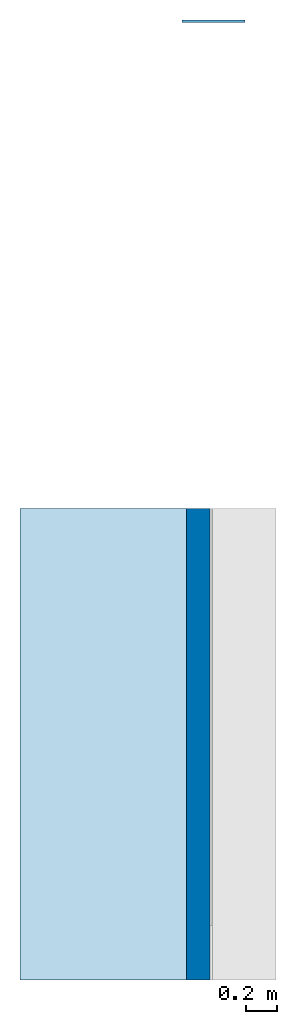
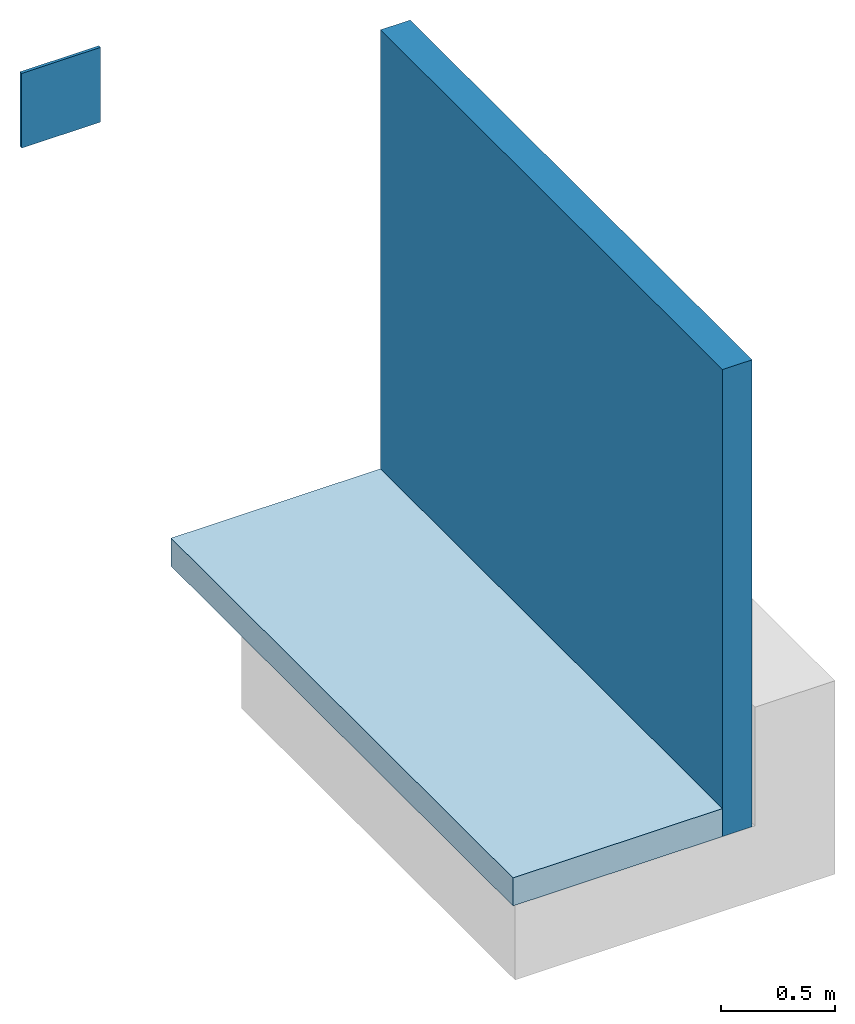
# One storey, part 1 of 2: 2 walls, 1 slab.
"""IFC2X3 building model written with IfcOpenShell, lengths in metres."""

import ifcopenshell
import ifcopenshell.guid

model = None  # the IFC model being written
_history = None  # IfcOwnerHistory: only IFC2X3 demands one
_inside = {}  # id of a spatial element -> (the spatial element, [elements in it])
_under = {}  # id of a project, library or spatial element -> (it, [spatial elements below it])
_declared = {}  # id of a project -> (the project, [libraries it declares])
_typed = {}  # id of a type object -> (the type object, [elements of that type])
_made_of = {}  # id of a material, layer set ... -> (it, [elements and type objects made of it])


def new_model(schema):
    """Start an empty IFC model of exactly this schema.

    Asked for "IFC4X3", IfcOpenShell would pick the latest addendum, in which some entities
    have other attributes; the version numbers below select the first issue.
    IFC2X3 requires an IfcOwnerHistory on every rooted entity: one is made here for all.
    """
    global model, _history
    if schema == "IFC4X3":
        model = ifcopenshell.file(schema_version=(4, 3, 0, 0))
    else:
        model = ifcopenshell.file(schema=schema)
    _inside.clear()
    _under.clear()
    _declared.clear()
    _typed.clear()
    _made_of.clear()
    _history = None
    if model.schema == "IFC2X3":
        org = make("IfcOrganization", Name="unknown")
        user = make(
            "IfcPersonAndOrganization",
            ThePerson=make("IfcPerson", FamilyName="unknown"),
            TheOrganization=org,
        )
        app = make(
            "IfcApplication",
            ApplicationDeveloper=org,
            Version="unknown",
            ApplicationFullName="unknown",
            ApplicationIdentifier="unknown",
        )
        _history = make(
            "IfcOwnerHistory",
            OwningUser=user,
            OwningApplication=app,
            ChangeAction="ADDED",
            CreationDate=0,
        )
    return model


def make(cls, **values):
    """One entity of the class cls with the attributes given. An attribute that is None is left unset."""
    return model.create_entity(
        cls, **{name: value for name, value in values.items() if value is not None}
    )


def entity(cls, *values):
    """Any entity or typed value of the class cls, its attributes in the order of the schema. None: left unset."""
    e = model.create_entity(cls)
    for i, value in enumerate(values):
        if value is not None:
            e[i] = value
    return e


def rooted(cls, **values):
    """An entity with a GlobalId (a new one), such as an element, a storey or a relation."""
    return make(cls, GlobalId=ifcopenshell.guid.new(), OwnerHistory=_history, **values)


def si_unit(unit_type, name, prefix=None):
    """IfcSIUnit, for example si_unit("LENGTHUNIT", "METRE", prefix="MILLI")."""
    return make("IfcSIUnit", UnitType=unit_type, Prefix=prefix, Name=name)


def converted_unit(unit_type, name, factor, base, dimensions=None, offset=None):
    """IfcConversionBasedUnit, such as the inch: factor (a typed value) times the base unit."""
    return make(
        "IfcConversionBasedUnit"
        if offset is None
        else "IfcConversionBasedUnitWithOffset",
        ConversionOffset=offset,
        Dimensions=None
        if dimensions is None
        else entity("IfcDimensionalExponents", *dimensions),
        UnitType=unit_type,
        Name=name,
        ConversionFactor=make(
            "IfcMeasureWithUnit", ValueComponent=factor, UnitComponent=base
        ),
    )


def derived_unit(unit_type, elements):
    """IfcDerivedUnit: a product of units, each with its exponent."""
    return make(
        "IfcDerivedUnit",
        Elements=[
            make("IfcDerivedUnitElement", Unit=unit, Exponent=power)
            for unit, power in elements
        ],
        UnitType=unit_type,
    )


def assignment(units):
    """IfcUnitAssignment: the units of a project."""
    return None if units is None else make("IfcUnitAssignment", Units=units)


def point(xyz):
    """IfcCartesianPoint."""
    return None if xyz is None else make("IfcCartesianPoint", Coordinates=xyz)


def direction(xyz):
    """IfcDirection."""
    return None if xyz is None else make("IfcDirection", DirectionRatios=xyz)


def frame(location, z_axis=None, x_axis=None):
    """IfcAxis2Placement3D, a coordinate frame: its origin and axes. An axis left out is left unset."""
    return make(
        "IfcAxis2Placement3D",
        Location=point(location),
        Axis=direction(z_axis),
        RefDirection=direction(x_axis),
    )


def frame_2d(location, x_axis=None):
    """IfcAxis2Placement2D, a coordinate frame in the plane: its origin and x axis."""
    return make(
        "IfcAxis2Placement2D", Location=point(location), RefDirection=direction(x_axis)
    )


def origin():
    """The frame at (0, 0, 0) with its axes left unset."""
    return frame((0.0, 0.0, 0.0))


def place(relative_to, where):
    """IfcLocalPlacement: puts the frame where relative to a parent placement (None: the world)."""
    return make(
        "IfcLocalPlacement", PlacementRelTo=relative_to, RelativePlacement=where
    )


def context(
    kind, dimensions, precision=None, world=None, true_north=None, identifier=None
):
    """IfcGeometricRepresentationContext, for example the 3D "Model" context."""
    return make(
        "IfcGeometricRepresentationContext",
        ContextIdentifier=identifier,
        ContextType=kind,
        CoordinateSpaceDimension=dimensions,
        Precision=precision,
        WorldCoordinateSystem=world,
        TrueNorth=true_north,
    )


def subcontext(parent, identifier, kind, view, scale=None):
    """IfcGeometricRepresentationSubContext, for example "Body" below "Model"."""
    return make(
        "IfcGeometricRepresentationSubContext",
        ContextIdentifier=identifier,
        ContextType=kind,
        ParentContext=parent,
        TargetScale=scale,
        TargetView=view,
    )


def project(units=None, contexts=None):
    """IfcProject with its units and contexts."""
    return rooted(
        "IfcProject",
        Name="project",
        RepresentationContexts=contexts,
        UnitsInContext=assignment(units),
    )


def spatial(cls, under=None, at=None, **own):
    """A site, building, storey or space (cls), placed at a placement, below another one or the project."""
    s = rooted(cls, ObjectPlacement=at, **own)
    if under is not None:
        _under.setdefault(under.id(), (under, []))[1].append(s)
    return s


def profile(cls, at=None, kind="AREA", **sizes):
    """A parametric profile (cls). Its sizes go by their IFC names, for example OverallWidth=200.0."""
    return make(cls, ProfileType=kind, Position=at, **sizes)


def rectangle(**sizes):
    """IfcRectangleProfileDef."""
    return profile("IfcRectangleProfileDef", **sizes)


def extrude(swept, where, along, depth):
    """IfcExtrudedAreaSolid: the profile swept, set in the frame where, extruded along a direction by depth."""
    return make(
        "IfcExtrudedAreaSolid",
        SweptArea=swept,
        Position=where,
        ExtrudedDirection=direction(along),
        Depth=depth,
    )


def shape(context_of_items, identifier, shape_type, items):
    """IfcShapeRepresentation: the items that make up one representation, for example the "Body"."""
    return make(
        "IfcShapeRepresentation",
        ContextOfItems=context_of_items,
        RepresentationIdentifier=identifier,
        RepresentationType=shape_type,
        Items=items,
    )


def material(Name=None, Category=None):
    """IfcMaterial."""
    return make("IfcMaterial", Name=Name, Category=Category)


def layer(
    of_material, thickness, ventilated=None, Name=None, Category=None, Priority=None
):
    """IfcMaterialLayer: one layer of a wall or slab, of a material (None: an air gap)."""
    return make(
        "IfcMaterialLayer",
        Material=of_material,
        LayerThickness=thickness,
        IsVentilated=ventilated,
        Name=Name,
        Category=Category,
        Priority=Priority,
    )


def layer_set(layers, Name=None):
    """IfcMaterialLayerSet."""
    return make("IfcMaterialLayerSet", MaterialLayers=layers, LayerSetName=Name)


def layer_usage(for_layer_set, set_direction, sense, offset, extent=None):
    """IfcMaterialLayerSetUsage: how a layer set lies in its element."""
    return make(
        "IfcMaterialLayerSetUsage",
        ForLayerSet=for_layer_set,
        LayerSetDirection=set_direction,
        DirectionSense=sense,
        OffsetFromReferenceLine=offset,
        ReferenceExtent=extent,
    )


def made_of(thing, what):
    """Note that an element or type object is made of a material, layer set ...; save() writes the relation."""
    if what is not None:
        _made_of.setdefault(what.id(), (what, []))[1].append(thing)
    return thing


def type_object(cls, material=None, **own):
    """A type object (cls), such as IfcWallType, which elements share."""
    return made_of(rooted(cls, **own), material)


def element(
    cls,
    number,
    at=None,
    inside=None,
    cuts=None,
    type_object=None,
    material=None,
    context=None,
    identifier="Body",
    shape_type=None,
    held_by="IfcProductDefinitionShape",
    body=None,
    shapes=None,
    **own,
):
    """One element of the class cls, such as IfcWall. Its Tag is "e" and its number.

    at: its placement. inside: the storey or other place that contains it. cuts: it is an
    opening in that element (IfcRelVoidsElement). A single representation is given by context,
    identifier, shape_type and body (its items); several are given by shapes. held_by: the class
    of the entity that holds the representations. save() writes the other relations.
    """
    e = rooted(cls, Tag="e%d" % number, ObjectPlacement=at, **own)
    if body is not None:
        shapes = [shape(context, identifier, shape_type, body)]
    if shapes is not None:
        e.Representation = make(held_by, Representations=shapes)
    if inside is not None:
        _inside.setdefault(inside.id(), (inside, []))[1].append(e)
    if cuts is not None:
        rooted(
            "IfcRelVoidsElement", RelatingBuildingElement=cuts, RelatedOpeningElement=e
        )
    if type_object is not None:
        _typed.setdefault(type_object.id(), (type_object, []))[1].append(e)
    return made_of(e, material)


def aggregate(whole, parts):
    """IfcRelAggregates: a whole, such as a stair, and the parts it consists of."""
    return rooted("IfcRelAggregates", RelatingObject=whole, RelatedObjects=parts)


def save(model, path):
    """Write the relations noted so far, then the file.

    IfcRelAggregates (storeys below a building ...), IfcRelContainedInSpatialStructure (elements
    in a storey), IfcRelDefinesByType, IfcRelAssociatesMaterial and IfcRelDeclares: one each for
    every whole, place, type object, material and project.
    """
    for whole, parts in _under.values():
        aggregate(whole, parts)
    for where, things in _inside.values():
        rooted(
            "IfcRelContainedInSpatialStructure",
            RelatedElements=things,
            RelatingStructure=where,
        )
    for kind, things in _typed.values():
        rooted("IfcRelDefinesByType", RelatedObjects=things, RelatingType=kind)
    for what, things in _made_of.values():
        rooted("IfcRelAssociatesMaterial", RelatedObjects=things, RelatingMaterial=what)
    for by, libraries in _declared.values():
        rooted("IfcRelDeclares", RelatingContext=by, RelatedDefinitions=libraries)
    model.write(path)


model = new_model("IFC2X3")

# Units and contexts
model_context = context("Model", 3, precision=1e-05, world=origin(), true_north=direction((6.123031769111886e-17, 1.0)))
body_context = subcontext(model_context, "Body", "Model", "MODEL_VIEW")
ifc_project = project(units=[si_unit("LENGTHUNIT", "METRE"), si_unit("AREAUNIT", "SQUARE_METRE"), si_unit("VOLUMEUNIT", "CUBIC_METRE"), converted_unit("PLANEANGLEUNIT", "DEGREE", entity("IfcRatioMeasure", 0.017453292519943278), si_unit("PLANEANGLEUNIT", "RADIAN"), dimensions=[0, 0, 0, 0, 0, 0, 0]), si_unit("MASSUNIT", "GRAM", prefix="KILO"), derived_unit("MASSDENSITYUNIT", [(si_unit("MASSUNIT", "GRAM", prefix="KILO"), 1), (si_unit("LENGTHUNIT", "METRE"), -3)]), derived_unit("IONCONCENTRATIONUNIT", [(si_unit("MASSUNIT", "GRAM", prefix="KILO"), 1), (si_unit("LENGTHUNIT", "METRE"), -3)]), derived_unit("MOMENTOFINERTIAUNIT", [(si_unit("LENGTHUNIT", "METRE"), 4)]), si_unit("TIMEUNIT", "SECOND"), si_unit("FREQUENCYUNIT", "HERTZ"), si_unit("THERMODYNAMICTEMPERATUREUNIT", "DEGREE_CELSIUS"), derived_unit("THERMALTRANSMITTANCEUNIT", [(si_unit("MASSUNIT", "GRAM", prefix="KILO"), 1), (si_unit("THERMODYNAMICTEMPERATUREUNIT", "KELVIN"), -1), (si_unit("TIMEUNIT", "SECOND"), -3)]), derived_unit("THERMALCONDUCTANCEUNIT", [(si_unit("MASSUNIT", "GRAM", prefix="KILO"), 1), (si_unit("THERMODYNAMICTEMPERATUREUNIT", "KELVIN"), -1), (si_unit("TIMEUNIT", "SECOND"), -3), (si_unit("LENGTHUNIT", "METRE"), 1)]), derived_unit("VOLUMETRICFLOWRATEUNIT", [(si_unit("LENGTHUNIT", "METRE"), 3), (si_unit("TIMEUNIT", "SECOND"), -1)]), derived_unit("MASSFLOWRATEUNIT", [(si_unit("MASSUNIT", "GRAM", prefix="KILO"), 1), (si_unit("TIMEUNIT", "SECOND"), -1)]), derived_unit("ROTATIONALFREQUENCYUNIT", [(si_unit("TIMEUNIT", "SECOND"), -1)]), si_unit("ELECTRICCURRENTUNIT", "AMPERE"), si_unit("ELECTRICVOLTAGEUNIT", "VOLT"), si_unit("POWERUNIT", "WATT"), si_unit("FORCEUNIT", "NEWTON", prefix="KILO"), si_unit("ILLUMINANCEUNIT", "LUX"), si_unit("LUMINOUSFLUXUNIT", "LUMEN"), si_unit("LUMINOUSINTENSITYUNIT", "CANDELA"), derived_unit("USERDEFINED", [(si_unit("MASSUNIT", "GRAM", prefix="KILO"), -1), (si_unit("LENGTHUNIT", "METRE"), -2), (si_unit("TIMEUNIT", "SECOND"), 3), (si_unit("LUMINOUSFLUXUNIT", "LUMEN"), 1)]), derived_unit("USERDEFINED", [(si_unit("MASSUNIT", "GRAM", prefix="KILO"), 1), (si_unit("TIMEUNIT", "SECOND"), -3), (si_unit("LENGTHUNIT", "METRE"), 3), (si_unit("ELECTRICCURRENTUNIT", "AMPERE"), -2)]), derived_unit("SOUNDPOWERUNIT", [(si_unit("MASSUNIT", "GRAM", prefix="KILO"), 1), (si_unit("TIMEUNIT", "SECOND"), -3), (si_unit("LENGTHUNIT", "METRE"), 2)]), derived_unit("SOUNDPRESSUREUNIT", [(si_unit("MASSUNIT", "GRAM", prefix="KILO"), 1), (si_unit("LENGTHUNIT", "METRE"), -1), (si_unit("TIMEUNIT", "SECOND"), -2)]), derived_unit("LINEARVELOCITYUNIT", [(si_unit("LENGTHUNIT", "METRE"), 1), (si_unit("TIMEUNIT", "SECOND"), -1)]), si_unit("PRESSUREUNIT", "PASCAL"), derived_unit("USERDEFINED", [(si_unit("MASSUNIT", "GRAM", prefix="KILO"), 1), (si_unit("LENGTHUNIT", "METRE"), -2), (si_unit("TIMEUNIT", "SECOND"), -2)]), derived_unit("LINEARFORCEUNIT", [(si_unit("MASSUNIT", "GRAM", prefix="KILO"), 1), (si_unit("TIMEUNIT", "SECOND"), -2)]), derived_unit("PLANARFORCEUNIT", [(si_unit("MASSUNIT", "GRAM", prefix="KILO"), 1), (si_unit("LENGTHUNIT", "METRE"), -1), (si_unit("TIMEUNIT", "SECOND"), -2)]), derived_unit("SPECIFICHEATCAPACITYUNIT", [(si_unit("THERMODYNAMICTEMPERATUREUNIT", "KELVIN"), -1), (si_unit("LENGTHUNIT", "METRE"), 2), (si_unit("TIMEUNIT", "SECOND"), -2)]), derived_unit("HEATINGVALUEUNIT", [(si_unit("LENGTHUNIT", "METRE"), 2), (si_unit("TIMEUNIT", "SECOND"), -2)]), derived_unit("VAPORPERMEABILITYUNIT", [(si_unit("LENGTHUNIT", "METRE"), -1), (si_unit("TIMEUNIT", "SECOND"), 1)]), derived_unit("DYNAMICVISCOSITYUNIT", [(si_unit("MASSUNIT", "GRAM", prefix="KILO"), 1), (si_unit("TIMEUNIT", "SECOND"), -1), (si_unit("LENGTHUNIT", "METRE"), -1)]), derived_unit("THERMALEXPANSIONCOEFFICIENTUNIT", [(si_unit("THERMODYNAMICTEMPERATUREUNIT", "KELVIN"), -1)]), derived_unit("MODULUSOFELASTICITYUNIT", [(si_unit("MASSUNIT", "GRAM", prefix="KILO"), 1), (si_unit("LENGTHUNIT", "METRE"), -1), (si_unit("TIMEUNIT", "SECOND"), -2)]), derived_unit("ISOTHERMALMOISTURECAPACITYUNIT", [(si_unit("LENGTHUNIT", "METRE"), 3), (si_unit("MASSUNIT", "GRAM", prefix="KILO"), -1)]), derived_unit("MOISTUREDIFFUSIVITYUNIT", [(si_unit("TIMEUNIT", "SECOND"), -1), (si_unit("LENGTHUNIT", "METRE"), 2)])], contexts=[model_context])

# Site, building, storey
site_placement = place(None, origin())
site = spatial("IfcSite", under=ifc_project, at=site_placement, Name="Default", CompositionType="ELEMENT")
building_placement = place(site_placement, origin())
building = spatial("IfcBuilding", under=site, at=building_placement, CompositionType="ELEMENT")
storey_placement = place(building_placement, frame((0.0, 0.0, -0.0025237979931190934)))
storey = spatial("IfcBuildingStorey", under=building, at=storey_placement, Name="ARQ Térreo", CompositionType="ELEMENT", Elevation=-0.0025237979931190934)

# Slab
ifc_material_1 = material(Name="#concreto")
ifc_layer_1 = layer(ifc_material_1, 0.14999999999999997)
ifc_layer_set_1 = layer_set([ifc_layer_1], Name="Piso:Genérico 150 mm")
ifc_layer_usage_1 = layer_usage(ifc_layer_set_1, "AXIS3", "POSITIVE", 0.0)
slab_type = type_object("IfcSlabType", Name="Piso:Genérico 150 mm", PredefinedType="FLOOR", material=ifc_layer_set_1)
slab_placement = place(storey_placement, origin())
element("IfcSlab", 1, at=slab_placement, inside=storey, type_object=slab_type, material=ifc_layer_usage_1, Name="Piso:Genérico 150 mm", ObjectType="Piso:Genérico 150 mm", PredefinedType="FLOOR", context=body_context, shape_type="SweptSolid", body=[
    extrude(rectangle(XDim=3.0000000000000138, YDim=1.0608100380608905, at=frame_2d((0.0, -5.551115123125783e-17), x_axis=(1.0, 0.0))), frame((-1.0323754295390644, -1.3541299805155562, 0.14999999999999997), z_axis=(0.0, 0.0, -1.0), x_axis=(0.0, 1.0, 0.0)), (0.0, 0.0, 1.0), 0.14999999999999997),
])

# Walls
ifc_layer_2 = layer(ifc_material_1, 0.14999999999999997)
ifc_layer_set_2 = layer_set([ifc_layer_2], Name="Parede básica:Parede básica:Parede Concreto")
ifc_layer_usage_2 = layer_usage(ifc_layer_set_2, "AXIS2", "NEGATIVE", 0.07499999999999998)
wall_type_1 = type_object("IfcWallType", Name="Parede básica:Parede básica:Parede Concreto", PredefinedType="STANDARD", material=ifc_layer_set_2)
wall_1_placement = place(storey_placement, frame((-0.4269704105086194, 0.14587001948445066, 0.0), z_axis=(0.0, 0.0, 1.0), x_axis=(0.0, -1.0, 0.0)))
element("IfcWallStandardCase", 2, at=wall_1_placement, inside=storey, type_object=wall_type_1, material=ifc_layer_usage_2, Name="Parede básica:Parede Concreto", ObjectType="Parede básica:Parede Concreto", context=body_context, shape_type="SweptSolid", body=[
    extrude(rectangle(XDim=2.9999999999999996, YDim=0.15000000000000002, at=frame_2d((1.4999999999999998, 0.0), x_axis=(-1.0, 0.0))), origin(), (0.0, 0.0, 1.0), 2.4999999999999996),
])
ifc_material_2 = material(Name="#Geotextil")
ifc_layer_3 = layer(ifc_material_2, 0.003)
ifc_material_3 = material(Name="#Chapisco")
ifc_layer_4 = layer(ifc_material_3, 0.0009999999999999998)
ifc_material_4 = material(Name="#Viaplus 1000")
ifc_layer_5 = layer(ifc_material_4, 0.0009999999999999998)
ifc_material_5 = material(Name="#argamassa")
ifc_layer_6 = layer(ifc_material_5, 0.01)
ifc_layer_set_3 = layer_set([ifc_layer_3, ifc_layer_4, ifc_layer_5, ifc_layer_6], Name="Parede básica:IMPV_VP1000")
ifc_layer_usage_3 = layer_usage(ifc_layer_set_3, "AXIS2", "NEGATIVE", 0.0075000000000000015)
wall_type_2 = type_object("IfcWallType", Name="Parede básica:IMPV_VP1000", PredefinedType="STANDARD", material=ifc_layer_set_3)
wall_2_placement = place(storey_placement, frame((-0.13197041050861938, 3.248370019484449, 0.0), z_axis=(0.0, 0.0, 1.0), x_axis=(-1.0, 0.0, 0.0)))
element("IfcWallStandardCase", 3, at=wall_2_placement, inside=storey, type_object=wall_type_2, material=ifc_layer_usage_3, Name="Parede básica:IMPV_VP7000", ObjectType="Parede básica:IMPV_VP7000", context=body_context, shape_type="SweptSolid", body=[
    extrude(rectangle(XDim=0.4, YDim=0.01499999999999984, at=frame_2d((0.2, -2.3678975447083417e-16), x_axis=(-1.0, 0.0))), origin(), (0.0, 0.0, 1.0), 0.4),
])

save(model, "model.ifc")
